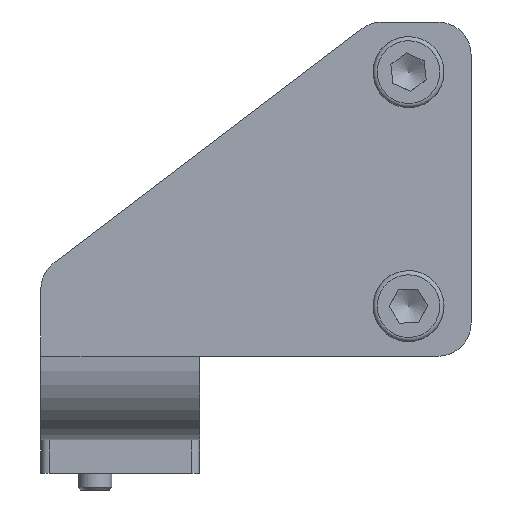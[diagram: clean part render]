
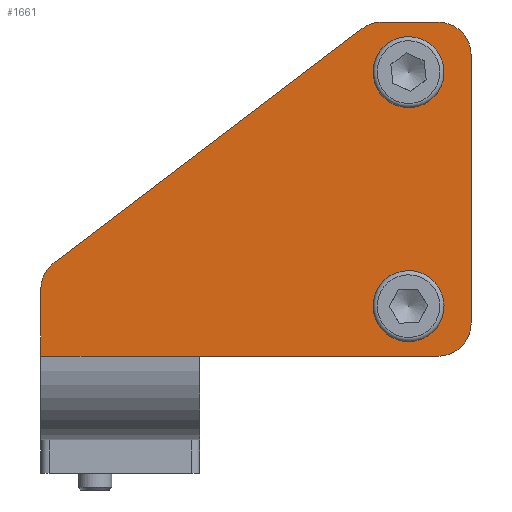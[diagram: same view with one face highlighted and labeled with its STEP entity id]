
A CAD part, left-side view. The second image highlights one B-rep face of the part: STEP entity #1661.
In plain terms, the highlighted planar face has unit normal (-1, 0, 0).
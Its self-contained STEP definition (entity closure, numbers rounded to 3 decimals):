
#134=PLANE('',#1866);
#193=LINE('',#2609,#311);
#194=LINE('',#2613,#312);
#195=LINE('',#2617,#313);
#196=LINE('',#2621,#314);
#197=LINE('',#2623,#315);
#198=LINE('',#2624,#316);
#311=VECTOR('',#2098,10.);
#312=VECTOR('',#2101,10.);
#313=VECTOR('',#2104,10.);
#314=VECTOR('',#2107,10.);
#315=VECTOR('',#2108,10.);
#316=VECTOR('',#2109,10.);
#421=FACE_BOUND('',#565,.T.);
#422=FACE_BOUND('',#566,.T.);
#460=FACE_OUTER_BOUND('',#564,.T.);
#564=EDGE_LOOP('',(#1185,#1186,#1187,#1188,#1189,#1190,#1191,#1192,#1193,
#1194));
#565=EDGE_LOOP('',(#1195));
#566=EDGE_LOOP('',(#1196));
#703=CIRCLE('',#1865,4.);
#704=CIRCLE('',#1867,4.);
#705=CIRCLE('',#1868,4.);
#706=CIRCLE('',#1869,4.);
#707=CIRCLE('',#1870,2.65);
#708=CIRCLE('',#1871,2.65);
#791=VERTEX_POINT('',#2602);
#792=VERTEX_POINT('',#2604);
#793=VERTEX_POINT('',#2608);
#794=VERTEX_POINT('',#2610);
#795=VERTEX_POINT('',#2612);
#796=VERTEX_POINT('',#2614);
#797=VERTEX_POINT('',#2616);
#798=VERTEX_POINT('',#2618);
#799=VERTEX_POINT('',#2620);
#800=VERTEX_POINT('',#2622);
#801=VERTEX_POINT('',#2625);
#802=VERTEX_POINT('',#2627);
#950=EDGE_CURVE('',#791,#792,#703,.T.);
#952=EDGE_CURVE('',#793,#791,#193,.T.);
#953=EDGE_CURVE('',#794,#793,#704,.T.);
#954=EDGE_CURVE('',#795,#794,#194,.T.);
#955=EDGE_CURVE('',#796,#795,#705,.T.);
#956=EDGE_CURVE('',#796,#797,#195,.T.);
#957=EDGE_CURVE('',#798,#797,#706,.T.);
#958=EDGE_CURVE('',#799,#798,#196,.T.);
#959=EDGE_CURVE('',#799,#800,#197,.T.);
#960=EDGE_CURVE('',#792,#800,#198,.T.);
#961=EDGE_CURVE('',#801,#801,#707,.T.);
#962=EDGE_CURVE('',#802,#802,#708,.T.);
#1185=ORIENTED_EDGE('',*,*,#950,.F.);
#1186=ORIENTED_EDGE('',*,*,#952,.F.);
#1187=ORIENTED_EDGE('',*,*,#953,.F.);
#1188=ORIENTED_EDGE('',*,*,#954,.F.);
#1189=ORIENTED_EDGE('',*,*,#955,.F.);
#1190=ORIENTED_EDGE('',*,*,#956,.T.);
#1191=ORIENTED_EDGE('',*,*,#957,.F.);
#1192=ORIENTED_EDGE('',*,*,#958,.F.);
#1193=ORIENTED_EDGE('',*,*,#959,.T.);
#1194=ORIENTED_EDGE('',*,*,#960,.F.);
#1195=ORIENTED_EDGE('',*,*,#961,.T.);
#1196=ORIENTED_EDGE('',*,*,#962,.T.);
#1661=ADVANCED_FACE('',(#460,#421,#422),#134,.F.);
#1865=AXIS2_PLACEMENT_3D('',#2605,#2093,#2094);
#1866=AXIS2_PLACEMENT_3D('',#2607,#2096,#2097);
#1867=AXIS2_PLACEMENT_3D('',#2611,#2099,#2100);
#1868=AXIS2_PLACEMENT_3D('',#2615,#2102,#2103);
#1869=AXIS2_PLACEMENT_3D('',#2619,#2105,#2106);
#1870=AXIS2_PLACEMENT_3D('',#2626,#2110,#2111);
#1871=AXIS2_PLACEMENT_3D('',#2628,#2112,#2113);
#2093=DIRECTION('center_axis',(1.,0.,0.));
#2094=DIRECTION('ref_axis',(0.,-0.707,-0.707));
#2096=DIRECTION('center_axis',(1.,0.,0.));
#2097=DIRECTION('ref_axis',(0.,0.,-1.));
#2098=DIRECTION('',(0.,0.,-1.));
#2099=DIRECTION('center_axis',(1.,0.,0.));
#2100=DIRECTION('ref_axis',(0.,-0.707,0.707));
#2101=DIRECTION('',(0.,-1.,0.));
#2102=DIRECTION('center_axis',(1.,0.,0.));
#2103=DIRECTION('ref_axis',(0.,0.319,0.948));
#2104=DIRECTION('',(0.,0.796,-0.605));
#2105=DIRECTION('center_axis',(1.,0.,0.));
#2106=DIRECTION('ref_axis',(0.,0.896,0.445));
#2107=DIRECTION('',(0.,0.,1.));
#2108=DIRECTION('',(0.,-1.,0.));
#2109=DIRECTION('',(0.,1.,0.));
#2110=DIRECTION('center_axis',(1.,0.,0.));
#2111=DIRECTION('ref_axis',(0.,0.,
1.));
#2112=DIRECTION('center_axis',(1.,0.,0.));
#2113=DIRECTION('ref_axis',(0.,0.,
1.));
#2602=CARTESIAN_POINT('',(-37.6,-32.5,14.));
#2604=CARTESIAN_POINT('',(-37.6,-28.5,10.));
#2605=CARTESIAN_POINT('Origin',(-37.6,-28.5,14.));
#2607=CARTESIAN_POINT('Origin',(-37.6,9.5,-29.789));
#2608=CARTESIAN_POINT('',(-37.6,-32.5,46.));
#2609=CARTESIAN_POINT('',(-37.6,-32.5,50.));
#2610=CARTESIAN_POINT('',(-37.6,-28.5,50.));
#2611=CARTESIAN_POINT('Origin',(-37.6,-28.5,46.));
#2612=CARTESIAN_POINT('',(-37.6,-21.847,50.));
#2613=CARTESIAN_POINT('',(-37.6,0.,50.));
#2614=CARTESIAN_POINT('',(-37.6,-19.427,49.185));
#2615=CARTESIAN_POINT('Origin',(-37.6,-21.847,46.));
#2616=CARTESIAN_POINT('',(-37.6,17.419,21.201));
#2617=CARTESIAN_POINT('',(-37.6,-4.703,38.002));
#2618=CARTESIAN_POINT('',(-37.6,19.,18.015));
#2619=CARTESIAN_POINT('Origin',(-37.6,15.,18.015));
#2620=CARTESIAN_POINT('',(-37.6,19.,10.));
#2621=CARTESIAN_POINT('',(-37.6,19.,10.));
#2622=CARTESIAN_POINT('',(-37.6,0.,10.));
#2623=CARTESIAN_POINT('',(-37.6,9.5,10.));
#2624=CARTESIAN_POINT('',(-37.6,-32.5,10.));
#2625=CARTESIAN_POINT('',(-37.6,-25.,46.65));
#2626=CARTESIAN_POINT('Origin',(-37.6,-25.,44.));
#2627=CARTESIAN_POINT('',(-37.6,-25.,18.65));
#2628=CARTESIAN_POINT('Origin',(-37.6,-25.,16.));
